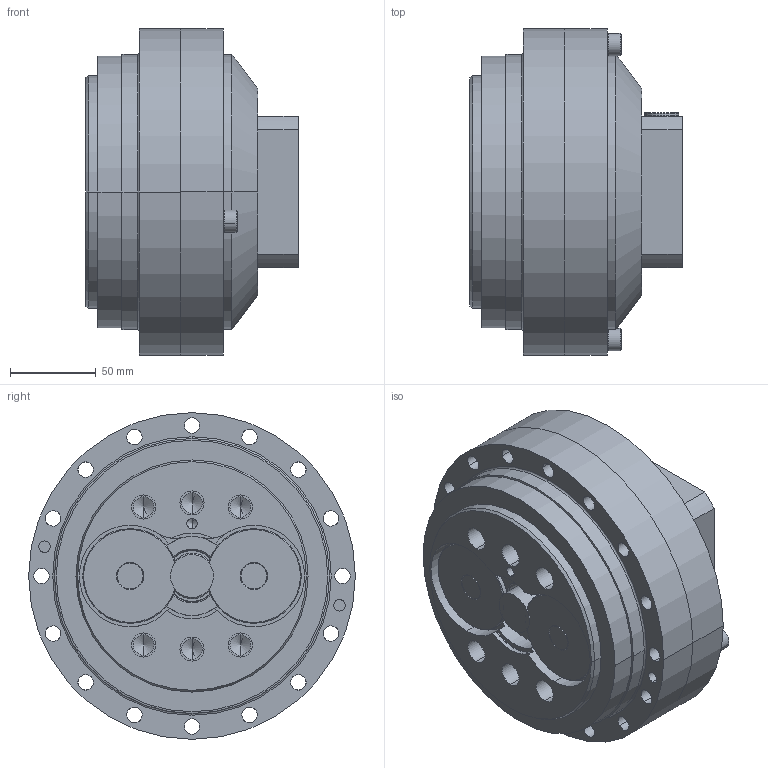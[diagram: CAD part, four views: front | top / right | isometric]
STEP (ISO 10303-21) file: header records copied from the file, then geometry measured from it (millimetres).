
FILE_DESCRIPTION (( 'STEP AP214' ), '1' );
FILE_NAME ('7302XXXX GCL-F-040-XXXC-M0000-H0000-C0000.step', '2018-10-30T14:59:16', ( '' ), ( '' ), 'SwSTEP 2.0', 'SolidWorks 2018', '' );
FILE_SCHEMA (( 'AUTOMOTIVE_DESIGN' ));
Length unit declared in the file: millimetre
Products named in the file (18): 46020022 Ext RR 30x1.50mm ST_98541A134; 55010026 090-B01; 4505XXXX M5 SHCS_M5 X 25                                            ; GCL-F-040 Pinion A; 4004XXXX O-Rings_55x1.5mm NBR; 46010012 Int RR 55x2.00mm ST; M6 SHCS_100620; GCL-F-040 Housing; 41010014 DGBB-16006; 7302XXXX GCL-F-040-XXXC-M0000-H0000-C0000; 51040002 14mm Plug; Pin; EPL08405-019; 21210009 EPL084 Input Shaft d1=19mm; 4508XXXX M8 SHCS_M8 X 40; 40010036 30x55x7mm Single NBR
Assembly tree (21 placements, depth 3):
  7302XXXX GCL-F-040-XXXC-M0000-H0000-C0000
    7302XXXX GCL-F-040-XXXC-M0000-H0000-C0000
    GCL-F-040 Housing
    4508XXXX M8 SHCS_M8 X 40  x2
    4004XXXX O-Rings_55x1.5mm NBR
    4505XXXX M5 SHCS_M5 X 25                                              x4
    55010026 090-B01
    21210009 EPL084 Input Shaft d1=19mm
    41010014 DGBB-16006
    40010036 30x55x7mm Single NBR
    46010012 Int RR 55x2.00mm ST
    51040002 14mm Plug
    EPL08405-019
      EPL08405-019
      M6 SHCS_100620
      Pin
    GCL-F-040 Pinion A
    46020022 Ext RR 30x1.50mm ST_98541A134
Bounding box: 123.5 x 190 x 190 mm (x, y, z)
Volume: 2176850.6 mm3; surface area: 322021.1 mm2
Topology: 28 solids, 47 shells, 1119 faces, 2624 edges, 1582 vertices
Faces by surface type: cylinder 484, cone 261, plane 250, torus 68, bspline 56
Entity records: 33330 total; most frequent: CARTESIAN_POINT 9065, DIRECTION 5322, ORIENTED_EDGE 4526, EDGE_CURVE 2271, AXIS2_PLACEMENT_3D 2257, VERTEX_POINT 1444, CIRCLE 1285, EDGE_LOOP 1227
